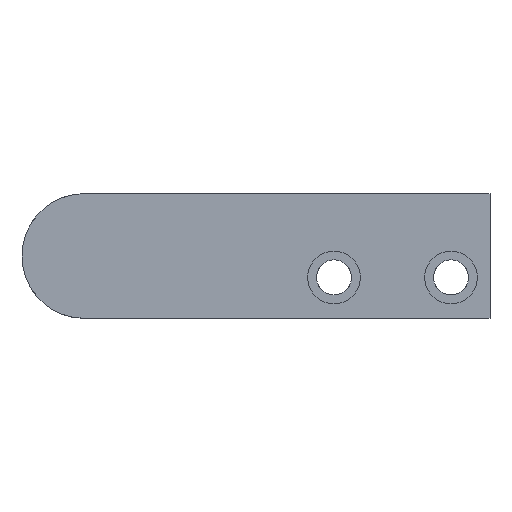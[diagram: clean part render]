
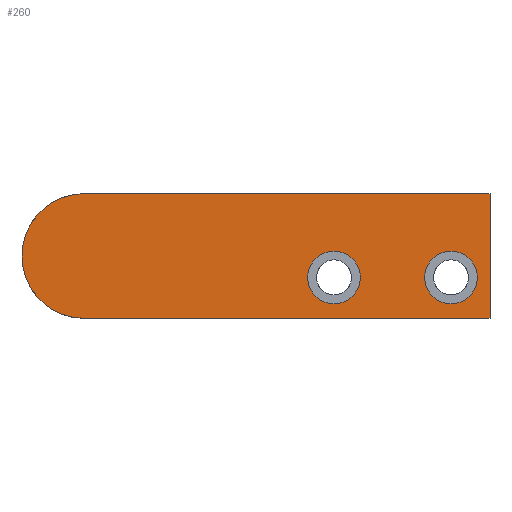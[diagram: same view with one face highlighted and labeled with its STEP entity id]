
A CAD part, top view. The second image highlights one B-rep face of the part: STEP entity #260.
In plain terms, the highlighted planar face has unit normal (0, 0, 1).
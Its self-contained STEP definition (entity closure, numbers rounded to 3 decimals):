
#6 = ORIENTED_EDGE ( 'NONE', *, *, #254, .T. ) ;
#93 = EDGE_CURVE ( 'NONE', #166, #112, #302, .T. ) ;
#94 = EDGE_CURVE ( 'NONE', #112, #107, #295, .T. ) ;
#100 = ORIENTED_EDGE ( 'NONE', *, *, #248, .T. ) ;
#102 = ORIENTED_EDGE ( 'NONE', *, *, #271, .T. ) ;
#103 = EDGE_LOOP ( 'NONE', ( #104, #6 ) ) ;
#104 = ORIENTED_EDGE ( 'NONE', *, *, #161, .T. ) ;
#105 = ORIENTED_EDGE ( 'NONE', *, *, #280, .T. ) ;
#106 = EDGE_LOOP ( 'NONE', ( #105, #109, #270, #108, #102 ) ) ;
#107 = VERTEX_POINT ( 'NONE', #308 ) ;
#108 = ORIENTED_EDGE ( 'NONE', *, *, #272, .T. ) ;
#109 = ORIENTED_EDGE ( 'NONE', *, *, #93, .T. ) ;
#112 = VERTEX_POINT ( 'NONE', #286 ) ;
#114 = EDGE_LOOP ( 'NONE', ( #100, #263 ) ) ;
#152 = VERTEX_POINT ( 'NONE', #514 ) ;
#161 = EDGE_CURVE ( 'NONE', #200, #201, #332, .T. ) ;
#166 = VERTEX_POINT ( 'NONE', #437 ) ;
#200 = VERTEX_POINT ( 'NONE', #374 ) ;
#201 = VERTEX_POINT ( 'NONE', #451 ) ;
#209 = VERTEX_POINT ( 'NONE', #361 ) ;
#210 = VERTEX_POINT ( 'NONE', #357 ) ;
#248 = EDGE_CURVE ( 'NONE', #209, #210, #715, .T. ) ;
#254 = EDGE_CURVE ( 'NONE', #201, #200, #648, .T. ) ;
#260 = ADVANCED_FACE ( 'NONE', ( #761, #639, #624 ), #630, .F. ) ;
#261 = EDGE_CURVE ( 'NONE', #210, #209, #754, .T. ) ;
#262 = VERTEX_POINT ( 'NONE', #760 ) ;
#263 = ORIENTED_EDGE ( 'NONE', *, *, #261, .T. ) ;
#270 = ORIENTED_EDGE ( 'NONE', *, *, #94, .T. ) ;
#271 = EDGE_CURVE ( 'NONE', #262, #152, #735, .T. ) ;
#272 = EDGE_CURVE ( 'NONE', #107, #262, #732, .T. ) ;
#280 = EDGE_CURVE ( 'NONE', #152, #166, #685, .T. ) ;
#286 = CARTESIAN_POINT ( 'NONE',  ( 0., -16., 5. ) ) ;
#293 = DIRECTION ( 'NONE',  ( 1., 0., 0. ) ) ;
#294 = VECTOR ( 'NONE', #293, 1000. ) ;
#295 = LINE ( 'NONE', #307, #294 ) ;
#297 = DIRECTION ( 'NONE',  ( 1., 0., 0. ) ) ;
#298 = DIRECTION ( 'NONE',  ( 0., 0., 1. ) ) ;
#299 = CARTESIAN_POINT ( 'NONE',  ( 0., 0., 5. ) ) ;
#300 = AXIS2_PLACEMENT_3D ( 'NONE', #299, #298, #297 ) ;
#302 = CIRCLE ( 'NONE', #300, 16. ) ;
#307 = CARTESIAN_POINT ( 'NONE',  ( 104., -16., 5. ) ) ;
#308 = CARTESIAN_POINT ( 'NONE',  ( 104., -16., 5. ) ) ;
#332 = CIRCLE ( 'NONE', #505, 6.75 ) ;
#357 = CARTESIAN_POINT ( 'NONE',  ( 100.75, -5.5, 5. ) ) ;
#361 = CARTESIAN_POINT ( 'NONE',  ( 87.25, -5.5, 5. ) ) ;
#374 = CARTESIAN_POINT ( 'NONE',  ( 57.25, -5.5, 5. ) ) ;
#437 = CARTESIAN_POINT ( 'NONE',  ( -16., 0., 5. ) ) ;
#451 = CARTESIAN_POINT ( 'NONE',  ( 70.75, -5.5, 5. ) ) ;
#489 = DIRECTION ( 'NONE',  ( -1., 0., 0. ) ) ;
#490 = DIRECTION ( 'NONE',  ( 0., 0., -1. ) ) ;
#491 = CARTESIAN_POINT ( 'NONE',  ( 64., -5.5, 5. ) ) ;
#505 = AXIS2_PLACEMENT_3D ( 'NONE', #491, #490, #489 ) ;
#514 = CARTESIAN_POINT ( 'NONE',  ( 0., 16., 5. ) ) ;
#567 = AXIS2_PLACEMENT_3D ( 'NONE', #619, #625, #758 ) ;
#619 = CARTESIAN_POINT ( 'NONE',  ( 0., 0., 5. ) ) ;
#624 = FACE_BOUND ( 'NONE', #103, .T. ) ;
#625 = DIRECTION ( 'NONE',  ( 0., 0., -1. ) ) ;
#630 = PLANE ( 'NONE',  #567 ) ;
#631 = DIRECTION ( 'NONE',  ( -1., 0., 0. ) ) ;
#632 = DIRECTION ( 'NONE',  ( 0., 0., -1. ) ) ;
#633 = CARTESIAN_POINT ( 'NONE',  ( 64., -5.5, 5. ) ) ;
#634 = AXIS2_PLACEMENT_3D ( 'NONE', #633, #632, #631 ) ;
#639 = FACE_OUTER_BOUND ( 'NONE', #106, .T. ) ;
#648 = CIRCLE ( 'NONE', #634, 6.75 ) ;
#681 = DIRECTION ( 'NONE',  ( 1., 0., 0. ) ) ;
#682 = DIRECTION ( 'NONE',  ( 0., 0., 1. ) ) ;
#683 = CARTESIAN_POINT ( 'NONE',  ( 0., 0., 5. ) ) ;
#684 = AXIS2_PLACEMENT_3D ( 'NONE', #683, #682, #681 ) ;
#685 = CIRCLE ( 'NONE', #684, 16. ) ;
#707 = DIRECTION ( 'NONE',  ( -1., 0., 0. ) ) ;
#708 = DIRECTION ( 'NONE',  ( 0., 0., -1. ) ) ;
#709 = CARTESIAN_POINT ( 'NONE',  ( 94., -5.5, 5. ) ) ;
#710 = AXIS2_PLACEMENT_3D ( 'NONE', #709, #708, #707 ) ;
#715 = CIRCLE ( 'NONE', #710, 6.75 ) ;
#729 = DIRECTION ( 'NONE',  ( 0., 1., 0. ) ) ;
#730 = VECTOR ( 'NONE', #729, 1000. ) ;
#731 = CARTESIAN_POINT ( 'NONE',  ( 104., 16., 5. ) ) ;
#732 = LINE ( 'NONE', #731, #730 ) ;
#733 = DIRECTION ( 'NONE',  ( -1., 0., 0. ) ) ;
#734 = VECTOR ( 'NONE', #733, 1000. ) ;
#735 = LINE ( 'NONE', #749, #734 ) ;
#749 = CARTESIAN_POINT ( 'NONE',  ( 0., 16., 5. ) ) ;
#750 = DIRECTION ( 'NONE',  ( -1., 0., 0. ) ) ;
#751 = DIRECTION ( 'NONE',  ( 0., 0., -1. ) ) ;
#752 = CARTESIAN_POINT ( 'NONE',  ( 94., -5.5, 5. ) ) ;
#753 = AXIS2_PLACEMENT_3D ( 'NONE', #752, #751, #750 ) ;
#754 = CIRCLE ( 'NONE', #753, 6.75 ) ;
#758 = DIRECTION ( 'NONE',  ( 1., 0., 0. ) ) ;
#760 = CARTESIAN_POINT ( 'NONE',  ( 104., 16., 5. ) ) ;
#761 = FACE_BOUND ( 'NONE', #114, .T. ) ;
